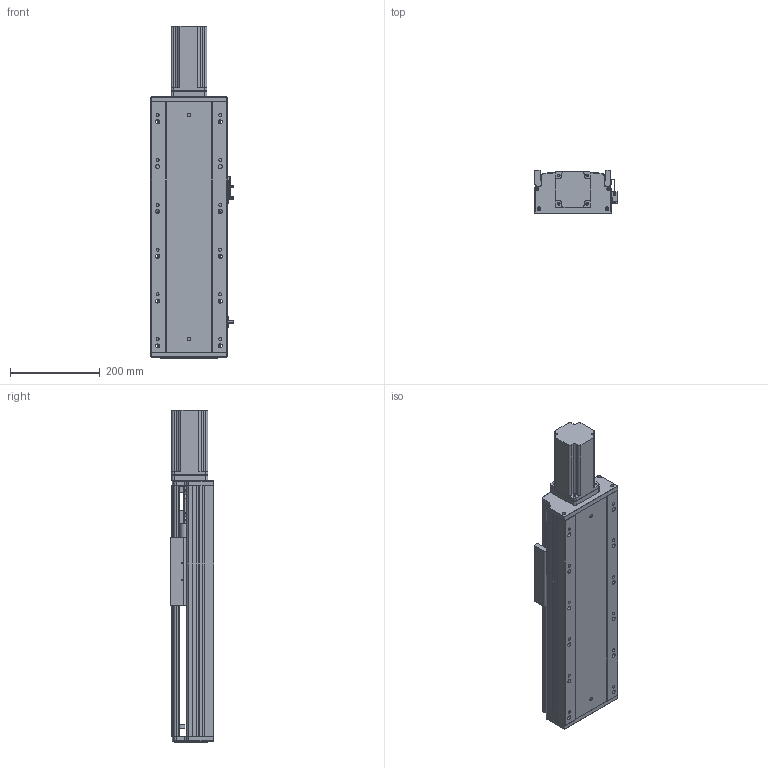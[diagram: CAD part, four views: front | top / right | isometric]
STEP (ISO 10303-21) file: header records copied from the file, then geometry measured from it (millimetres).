
FILE_DESCRIPTION (( 'STEP AP203' ), '1' );
FILE_NAME ('RY170-L2510-300-MK(FK17).SLDASM_250.step', '2022-08-23T02:00:09', ( '' ), ( '' ), 'SwSTEP 2.0', 'SolidWorks 2016', '' );
FILE_SCHEMA (( 'CONFIG_CONTROL_DESIGN' ));
Length unit declared in the file: millimetre
Products named in the file (15): 侂狟750W萇儂ㄗ80遺ㄘ; RY170-L2510-300-MK(FK17).SLDASM_250; 覜茼ん672; RY170-300倰第菁釱-MK_250; 滅袉蝶18-28; RY170ヶ醱裔啣; 750W萇儂梓袧蛌諉啣; RY170电机端支撑座(25丝杆7004轴承)-压铸(FK17); RY170臏賑輸25佪裝蹟譫; 15; RY170綴裔啣; 滅袉蝶18-10; 侂狟400W侜督萇儂; RY170外置感应片(200共用）; RY170-300倰第裔啣-MK_250
Assembly tree (16 placements, depth 3):
  RY170-L2510-300-MK(FK17).SLDASM_250
    RY170-300倰第菁釱-MK_250
    RY170-300倰第裔啣-MK_250
    RY170臏賑輸25佪裝蹟譫
    侂狟400W侜督萇儂
      15
    RY170綴裔啣
    RY170电机端支撑座(25丝杆7004轴承)-压铸(FK17)
    覜茼ん672  x3
    RY170外置感应片(200共用）
    RY170ヶ醱裔啣
    滅袉蝶18-28
    滅袉蝶18-10
    侂狟750W萇儂ㄗ80遺ㄘ
    750W萇儂梓袧蛌諉啣
Bounding box: 183.7 x 97 x 741 mm (x, y, z)
Volume: 4612205.2 mm3; surface area: 1195292.7 mm2
Topology: 15 solids, 15 shells, 2121 faces, 6043 edges, 3882 vertices
Faces by surface type: plane 1014, cylinder 868, cone 203, bspline 36
Entity records: 68239 total; most frequent: CARTESIAN_POINT 15676, ORIENTED_EDGE 10874, DIRECTION 10503, EDGE_CURVE 5437, AXIS2_PLACEMENT_3D 3630, VERTEX_POINT 3562, LINE 3243, VECTOR 3243
